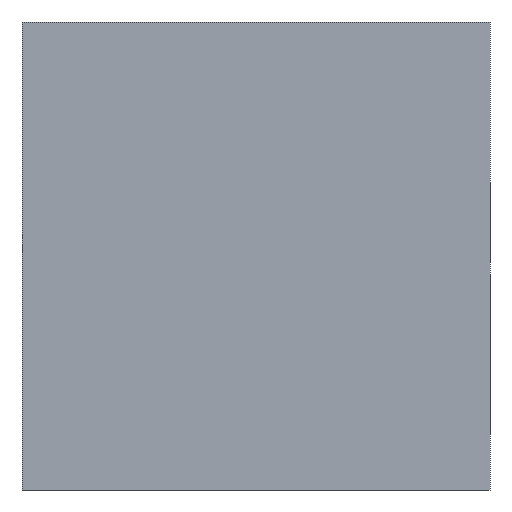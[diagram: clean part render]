
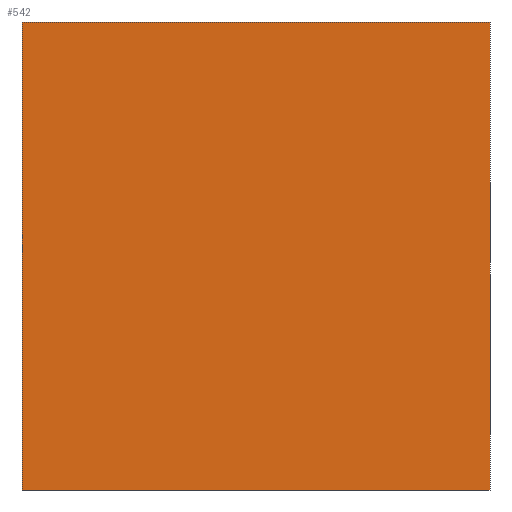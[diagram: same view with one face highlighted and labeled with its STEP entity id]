
A CAD part, front view. The second image highlights one B-rep face of the part: STEP entity #542.
In plain terms, the highlighted planar face has unit normal (0, -1, 0).
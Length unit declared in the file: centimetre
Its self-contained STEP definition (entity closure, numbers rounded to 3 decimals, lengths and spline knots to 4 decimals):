
#29 = ORIENTED_EDGE ( 'NONE', *, *, #135, .F. ) ;
#35 = CARTESIAN_POINT ( 'NONE',  ( 0., 0., 0. ) ) ;
#49 = CARTESIAN_POINT ( 'NONE',  ( 0., 0., 1000. ) ) ;
#57 = VERTEX_POINT ( 'NONE', #73 ) ;
#58 = EDGE_CURVE ( 'NONE', #57, #444, #136, .T. ) ;
#70 = CARTESIAN_POINT ( 'NONE',  ( 0., 0., 1000. ) ) ;
#73 = CARTESIAN_POINT ( 'NONE',  ( 1000., 0., 1000. ) ) ;
#104 = LINE ( 'NONE', #325, #234 ) ;
#111 = EDGE_CURVE ( 'NONE', #180, #631, #406, .T. ) ;
#122 = AXIS2_PLACEMENT_3D ( 'NONE', #70, #191, #198 ) ;
#126 = VECTOR ( 'NONE', #508, 100. ) ;
#135 = EDGE_CURVE ( 'NONE', #180, #57, #616, .T. ) ;
#136 = LINE ( 'NONE', #297, #162 ) ;
#144 = PLANE ( 'NONE',  #122 ) ;
#162 = VECTOR ( 'NONE', #670, 100. ) ;
#180 = VERTEX_POINT ( 'NONE', #49 ) ;
#186 = CARTESIAN_POINT ( 'NONE',  ( 1000., 0., 0. ) ) ;
#191 = DIRECTION ( 'NONE',  ( 0., 1., 0. ) ) ;
#198 = DIRECTION ( 'NONE',  ( 0., 0., 1. ) ) ;
#234 = VECTOR ( 'NONE', #539, 100. ) ;
#277 = EDGE_CURVE ( 'NONE', #631, #444, #104, .T. ) ;
#288 = CARTESIAN_POINT ( 'NONE',  ( 0., 0., 1000. ) ) ;
#297 = CARTESIAN_POINT ( 'NONE',  ( 1000., 0., 1000. ) ) ;
#300 = VECTOR ( 'NONE', #355, 100. ) ;
#325 = CARTESIAN_POINT ( 'NONE',  ( 0., 0., 0. ) ) ;
#355 = DIRECTION ( 'NONE',  ( 0., 0., -1. ) ) ;
#406 = LINE ( 'NONE', #567, #300 ) ;
#407 = FACE_OUTER_BOUND ( 'NONE', #443, .T. ) ;
#443 = EDGE_LOOP ( 'NONE', ( #661, #604, #29, #655 ) ) ;
#444 = VERTEX_POINT ( 'NONE', #186 ) ;
#508 = DIRECTION ( 'NONE',  ( 1., 0., 0. ) ) ;
#539 = DIRECTION ( 'NONE',  ( 1., 0., 0. ) ) ;
#542 = ADVANCED_FACE ( 'NONE', ( #407 ), #144, .F. ) ;
#567 = CARTESIAN_POINT ( 'NONE',  ( 0., 0., 1000. ) ) ;
#604 = ORIENTED_EDGE ( 'NONE', *, *, #58, .F. ) ;
#616 = LINE ( 'NONE', #288, #126 ) ;
#631 = VERTEX_POINT ( 'NONE', #35 ) ;
#655 = ORIENTED_EDGE ( 'NONE', *, *, #111, .T. ) ;
#661 = ORIENTED_EDGE ( 'NONE', *, *, #277, .T. ) ;
#670 = DIRECTION ( 'NONE',  ( 0., 0., -1. ) ) ;
